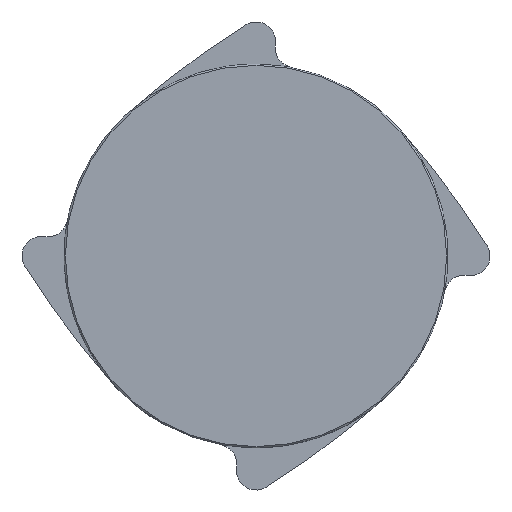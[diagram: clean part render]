
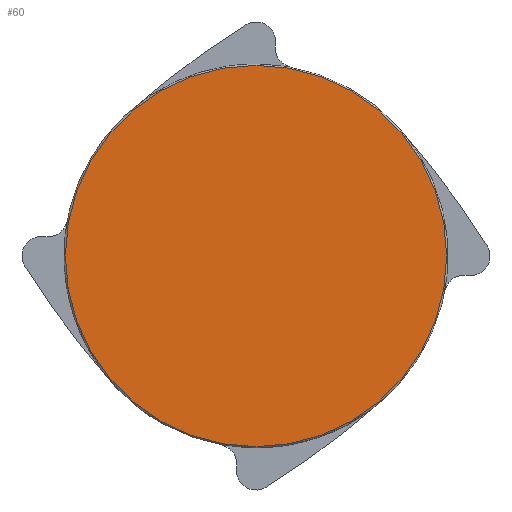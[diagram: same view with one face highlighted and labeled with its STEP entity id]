
A CAD part, front view. The second image highlights one B-rep face of the part: STEP entity #60.
In plain terms, the highlighted planar face has unit normal (0, -1, 0).
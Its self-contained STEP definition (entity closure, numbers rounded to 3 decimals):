
#60=ADVANCED_FACE('',(#269),#268,.T.);
#268=PLANE('',#455);
#269=FACE_OUTER_BOUND('',#456,.T.);
#452=CARTESIAN_POINT('',(-193.022,-6.,51.048));
#453=DIRECTION('',(0.,-1.,0.));
#454=DIRECTION('',(0.,0.,-1.));
#455=AXIS2_PLACEMENT_3D('',#452,#453,#454);
#456=EDGE_LOOP('',(#600,#601));
#600=ORIENTED_EDGE('',*,*,#700,.T.);
#601=ORIENTED_EDGE('',*,*,#701,.T.);
#700=EDGE_CURVE('',#1038,#1039,#1040,.T.);
#701=EDGE_CURVE('',#1039,#1038,#1046,.T.);
#1038=VERTEX_POINT('',#1366);
#1039=VERTEX_POINT('',#1367);
#1040=CIRCLE('',#1371,72.5);
#1046=CIRCLE('',#1375,72.5);
#1366=CARTESIAN_POINT('',(-57.449,-6.,-176.452));
#1367=CARTESIAN_POINT('',(-57.449,-6.,-31.452));
#1368=CARTESIAN_POINT('',(-57.449,-6.,-103.952));
#1369=DIRECTION('',(0.,-1.,0.));
#1370=DIRECTION('',(0.,0.,-1.));
#1371=AXIS2_PLACEMENT_3D('',#1368,#1369,#1370);
#1372=CARTESIAN_POINT('',(-57.449,-6.,-103.952));
#1373=DIRECTION('',(0.,-1.,0.));
#1374=DIRECTION('',(0.,0.,-1.));
#1375=AXIS2_PLACEMENT_3D('',#1372,#1373,#1374);
